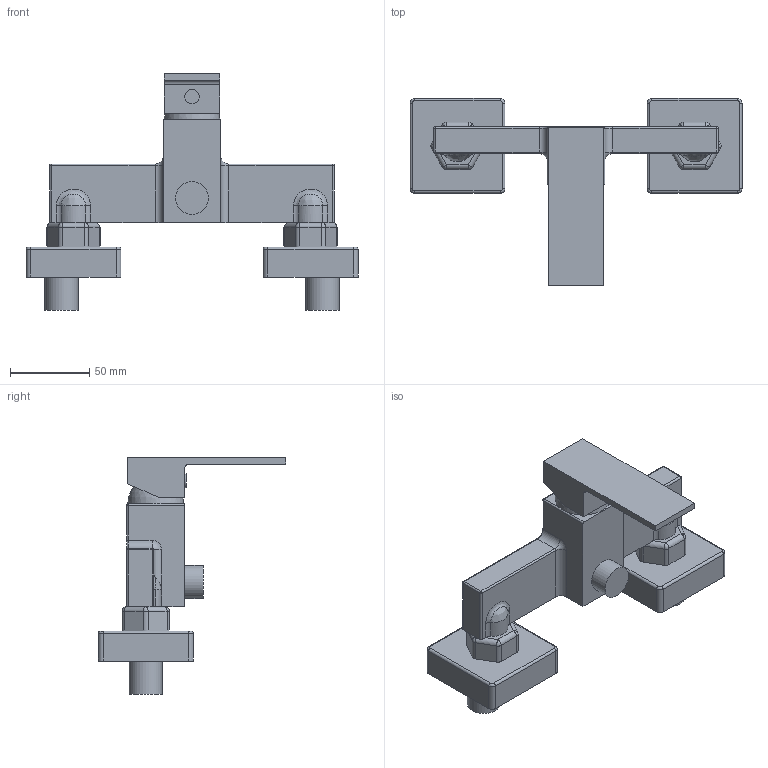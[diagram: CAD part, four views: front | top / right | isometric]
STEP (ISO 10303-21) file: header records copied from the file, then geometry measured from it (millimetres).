
FILE_DESCRIPTION(/* description */ ('CANTO bateria natryskowa BRUSHED GOLD','CAx-IF Rec.Pracs.---Representation and Presentation of Product Manufacturing Information (PMI)---4.0---2014-10-13'),/* implementation_level */ '2;1');
FILE_NAME(/* name */ 'C:\Nextcloud\02_biblioteki_cad\Valvex\Projekt\PROJECTS\ETAP 7\CANTO\pochodne\2420470\2420470.stp',/* time_stamp */ '2022-12-06T09:53:39+01:00',/* author */ ('Alan Batog'),/* organization */ (''),/* preprocessor_version */ 'ST-DEVELOPER v18.1',/* originating_system */ 'Autodesk Inventor 2022',/* authorisation */ '');
FILE_SCHEMA (('AP242_MANAGED_MODEL_BASED_3D_ENGINEERING_MIM_LF { 1 0 10303 442 1 1 4 }'));
Length unit declared in the file: millimetre
Products named in the file (1): 2420470
Bounding box: 210 x 118.5 x 149.6 mm (x, y, z)
Volume: 407244 mm3; surface area: 66762.3 mm2
Topology: 2 solids, 2 shells, 160 faces, 363 edges, 212 vertices
Faces by surface type: cylinder 70, plane 55, sphere 19, bspline 12, torus 4
Full cylindrical faces by diameter (mm): 9 x1, 21 x3
Entity records: 4904 total; most frequent: CARTESIAN_POINT 1068, DIRECTION 830, ORIENTED_EDGE 724, EDGE_CURVE 362, AXIS2_PLACEMENT_3D 316, VERTEX_POINT 212, LINE 198, VECTOR 198
